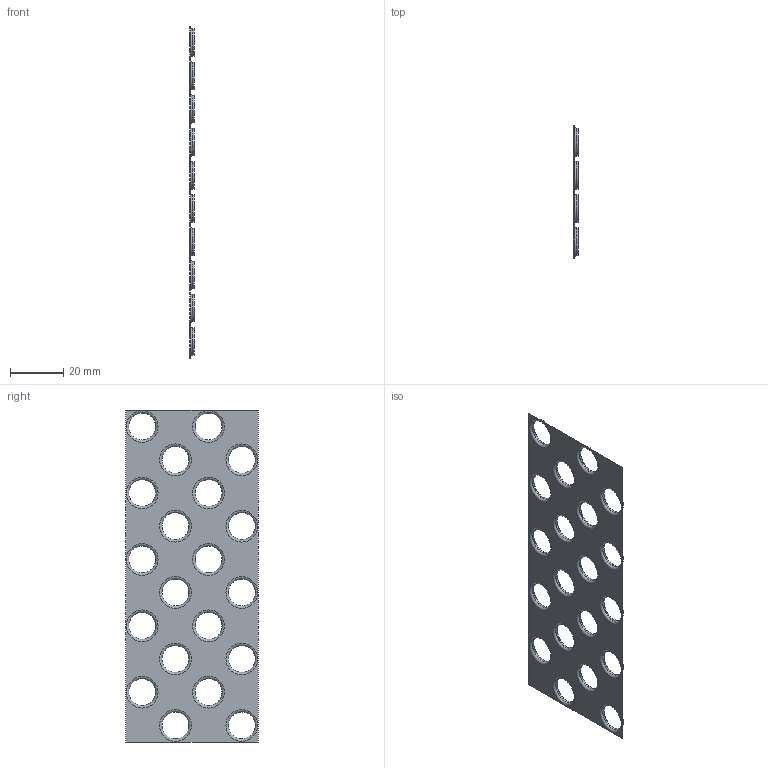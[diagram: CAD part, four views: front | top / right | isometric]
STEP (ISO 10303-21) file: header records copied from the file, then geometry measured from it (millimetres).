
FILE_DESCRIPTION( ( 'Unknown' ), '1' );
FILE_NAME( '//SERVER2K3/Dati/Documenti/TEC/SolidEdge/solidedge/Template/Pacchi Alettati/Geometrie formato STEP/Pacco Standard 25x12,5.stp', 'Unknown', ( 'Unknown' ), ( 'Unknown' ), 'PSStep 15.0.49', 'Unknown', ' ' );
FILE_SCHEMA( ( 'AUTOMOTIVE_DESIGN { 1 0 10303 214 1 1 1 1 }' ) );
Length unit declared in the file: millimetre
Products named in the file (1): 1
Bounding box: 1.6 x 50 x 125 mm (x, y, z)
Volume: 644.1 mm3; surface area: 10853.7 mm2
Topology: 1 solids, 1 shells, 106 faces, 252 edges, 168 vertices
Faces by surface type: cylinder 40, torus 40, plane 26
Full cylindrical faces by diameter (mm): 10.1 x20, 10.34 x20
Entity records: 3300 total; most frequent: DIRECTION 466, CARTESIAN_POINT 367, ORIENTED_EDGE 264, EDGE_LOOP 246, AXIS2_PLACEMENT_3D 227, FACE_OUTER_BOUND 186, EDGE_CURVE 132, VERTEX_POINT 128
